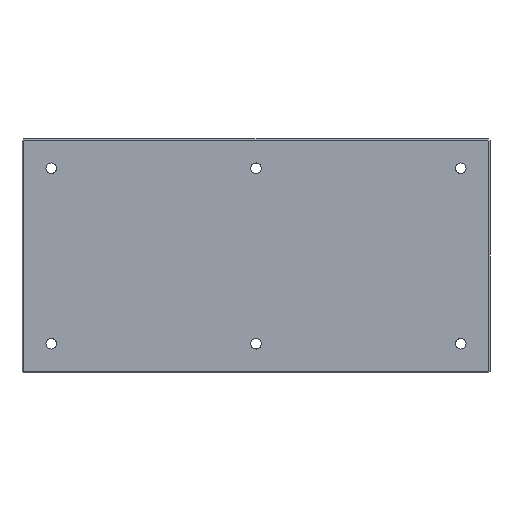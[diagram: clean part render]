
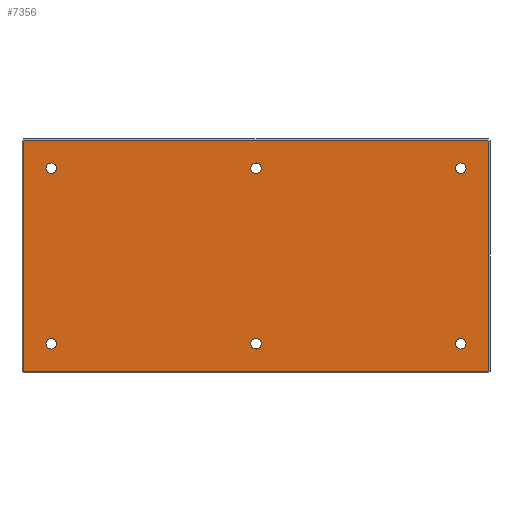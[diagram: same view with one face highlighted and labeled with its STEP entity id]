
A CAD part, front view. The second image highlights one B-rep face of the part: STEP entity #7356.
In plain terms, the highlighted planar face has unit normal (0, -1, 0).
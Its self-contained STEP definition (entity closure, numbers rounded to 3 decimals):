
#1=CARTESIAN_POINT('',(350.,-30.,150.));
#2=DIRECTION('',(0.,1.,0.));
#3=DIRECTION('',(1.,0.,0.));
#4=AXIS2_PLACEMENT_3D('',#1,#2,#3);
#6=CARTESIAN_POINT('',(350.,-30.,150.));
#7=DIRECTION('',(0.,1.,0.));
#8=DIRECTION('',(-1.,0.,0.));
#9=AXIS2_PLACEMENT_3D('',#6,#7,#8);
#11=CARTESIAN_POINT('',(0.,-30.,150.));
#12=DIRECTION('',(0.,1.,0.));
#13=DIRECTION('',(1.,0.,0.));
#14=AXIS2_PLACEMENT_3D('',#11,#12,#13);
#16=CARTESIAN_POINT('',(0.,-30.,150.));
#17=DIRECTION('',(0.,1.,0.));
#18=DIRECTION('',(-1.,0.,0.));
#19=AXIS2_PLACEMENT_3D('',#16,#17,#18);
#21=CARTESIAN_POINT('',(-350.,-30.,150.));
#22=DIRECTION('',(0.,1.,0.));
#23=DIRECTION('',(1.,0.,0.));
#24=AXIS2_PLACEMENT_3D('',#21,#22,#23);
#26=CARTESIAN_POINT('',(-350.,-30.,150.));
#27=DIRECTION('',(0.,1.,0.));
#28=DIRECTION('',(-1.,0.,0.));
#29=AXIS2_PLACEMENT_3D('',#26,#27,#28);
#31=CARTESIAN_POINT('',(350.,-30.,-150.));
#32=DIRECTION('',(0.,-1.,0.));
#33=DIRECTION('',(1.,0.,0.));
#34=AXIS2_PLACEMENT_3D('',#31,#32,#33);
#36=CARTESIAN_POINT('',(350.,-30.,-150.));
#37=DIRECTION('',(0.,-1.,0.));
#38=DIRECTION('',(-1.,0.,0.));
#39=AXIS2_PLACEMENT_3D('',#36,#37,#38);
#41=CARTESIAN_POINT('',(0.,-30.,-150.));
#42=DIRECTION('',(0.,-1.,0.));
#43=DIRECTION('',(1.,0.,0.));
#44=AXIS2_PLACEMENT_3D('',#41,#42,#43);
#46=CARTESIAN_POINT('',(0.,-30.,-150.));
#47=DIRECTION('',(0.,-1.,0.));
#48=DIRECTION('',(-1.,0.,0.));
#49=AXIS2_PLACEMENT_3D('',#46,#47,#48);
#51=CARTESIAN_POINT('',(-350.,-30.,-150.));
#52=DIRECTION('',(0.,-1.,0.));
#53=DIRECTION('',(1.,0.,0.));
#54=AXIS2_PLACEMENT_3D('',#51,#52,#53);
#56=CARTESIAN_POINT('',(-350.,-30.,-150.));
#57=DIRECTION('',(0.,-1.,0.));
#58=DIRECTION('',(-1.,0.,0.));
#59=AXIS2_PLACEMENT_3D('',#56,#57,#58);
#61=DIRECTION('',(0.707,0.,-0.707));
#62=VECTOR('',#61,1.757);
#63=CARTESIAN_POINT('',(-397.,-30.,-195.757));
#64=LINE('',#63,#62);
#65=DIRECTION('',(0.,0.,-1.));
#66=VECTOR('',#65,391.515);
#67=CARTESIAN_POINT('',(-397.,-30.,195.757));
#68=LINE('',#67,#66);
#69=DIRECTION('',(-0.707,0.,-0.707));
#70=VECTOR('',#69,1.757);
#71=CARTESIAN_POINT('',(-395.757,-30.,197.));
#72=LINE('',#71,#70);
#73=DIRECTION('',(-1.,0.,0.));
#74=VECTOR('',#73,791.515);
#75=CARTESIAN_POINT('',(395.757,-30.,197.));
#76=LINE('',#75,#74);
#77=DIRECTION('',(-0.707,0.,0.707));
#78=VECTOR('',#77,1.757);
#79=CARTESIAN_POINT('',(397.,-30.,195.757));
#80=LINE('',#79,#78);
#81=DIRECTION('',(0.,0.,1.));
#82=VECTOR('',#81,391.515);
#83=CARTESIAN_POINT('',(397.,-30.,-195.757));
#84=LINE('',#83,#82);
#85=DIRECTION('',(0.707,0.,0.707));
#86=VECTOR('',#85,1.757);
#87=CARTESIAN_POINT('',(395.757,-30.,-197.));
#88=LINE('',#87,#86);
#89=DIRECTION('',(1.,0.,0.));
#90=VECTOR('',#89,791.515);
#91=CARTESIAN_POINT('',(-395.757,-30.,-197.));
#92=LINE('',#91,#90);
#6537=CARTESIAN_POINT('',(359.,-30.,150.));
#6538=CARTESIAN_POINT('',(341.,-30.,150.));
#6539=VERTEX_POINT('',#6537);
#6540=VERTEX_POINT('',#6538);
#6573=CARTESIAN_POINT('',(9.,-30.,150.));
#6574=CARTESIAN_POINT('',(-9.,-30.,150.));
#6575=VERTEX_POINT('',#6573);
#6576=VERTEX_POINT('',#6574);
#6601=CARTESIAN_POINT('',(-341.,-30.,150.));
#6602=CARTESIAN_POINT('',(-359.,-30.,150.));
#6603=VERTEX_POINT('',#6601);
#6604=VERTEX_POINT('',#6602);
#6645=CARTESIAN_POINT('',(359.,-30.,-150.));
#6646=VERTEX_POINT('',#6645);
#6647=CARTESIAN_POINT('',(341.,-30.,-150.));
#6648=VERTEX_POINT('',#6647);
#6657=CARTESIAN_POINT('',(9.,-30.,-150.));
#6658=VERTEX_POINT('',#6657);
#6659=CARTESIAN_POINT('',(-9.,-30.,-150.));
#6660=VERTEX_POINT('',#6659);
#6669=CARTESIAN_POINT('',(-341.,-30.,-150.));
#6670=VERTEX_POINT('',#6669);
#6671=CARTESIAN_POINT('',(-359.,-30.,-150.));
#6672=VERTEX_POINT('',#6671);
#7161=CARTESIAN_POINT('',(-397.,-30.,-195.757));
#7162=CARTESIAN_POINT('',(-395.757,-30.,-197.));
#7163=VERTEX_POINT('',#7161);
#7164=VERTEX_POINT('',#7162);
#7171=CARTESIAN_POINT('',(395.757,-30.,-197.));
#7172=VERTEX_POINT('',#7171);
#7173=CARTESIAN_POINT('',(397.,-30.,-195.757));
#7174=VERTEX_POINT('',#7173);
#7179=CARTESIAN_POINT('',(397.,-30.,195.757));
#7180=VERTEX_POINT('',#7179);
#7181=CARTESIAN_POINT('',(395.757,-30.,197.));
#7182=VERTEX_POINT('',#7181);
#7187=CARTESIAN_POINT('',(-395.757,-30.,197.));
#7188=VERTEX_POINT('',#7187);
#7191=CARTESIAN_POINT('',(-397.,-30.,195.757));
#7192=VERTEX_POINT('',#7191);
#7297=CARTESIAN_POINT('',(0.,-30.,0.));
#7298=DIRECTION('',(0.,1.,0.));
#7299=DIRECTION('',(1.,0.,0.));
#7300=AXIS2_PLACEMENT_3D('',#7297,#7298,#7299);
#7301=PLANE('',#7300);
#7303=ORIENTED_EDGE('',*,*,#7302,.F.);
#7305=ORIENTED_EDGE('',*,*,#7304,.F.);
#7307=ORIENTED_EDGE('',*,*,#7306,.F.);
#7309=ORIENTED_EDGE('',*,*,#7308,.F.);
#7311=ORIENTED_EDGE('',*,*,#7310,.F.);
#7313=ORIENTED_EDGE('',*,*,#7312,.F.);
#7315=ORIENTED_EDGE('',*,*,#7314,.F.);
#7317=ORIENTED_EDGE('',*,*,#7316,.F.);
#7318=EDGE_LOOP('',(#7303,#7305,#7307,#7309,#7311,#7313,#7315,#7317));
#7319=FACE_OUTER_BOUND('',#7318,.F.);
#7321=ORIENTED_EDGE('',*,*,#7320,.F.);
#7323=ORIENTED_EDGE('',*,*,#7322,.F.);
#7324=EDGE_LOOP('',(#7321,#7323));
#7325=FACE_BOUND('',#7324,.F.);
#7327=ORIENTED_EDGE('',*,*,#7326,.F.);
#7329=ORIENTED_EDGE('',*,*,#7328,.F.);
#7330=EDGE_LOOP('',(#7327,#7329));
#7331=FACE_BOUND('',#7330,.F.);
#7333=ORIENTED_EDGE('',*,*,#7332,.T.);
#7335=ORIENTED_EDGE('',*,*,#7334,.T.);
#7336=EDGE_LOOP('',(#7333,#7335));
#7337=FACE_BOUND('',#7336,.F.);
#7339=ORIENTED_EDGE('',*,*,#7338,.T.);
#7341=ORIENTED_EDGE('',*,*,#7340,.T.);
#7342=EDGE_LOOP('',(#7339,#7341));
#7343=FACE_BOUND('',#7342,.F.);
#7345=ORIENTED_EDGE('',*,*,#7344,.T.);
#7347=ORIENTED_EDGE('',*,*,#7346,.T.);
#7348=EDGE_LOOP('',(#7345,#7347));
#7349=FACE_BOUND('',#7348,.F.);
#7351=ORIENTED_EDGE('',*,*,#7350,.F.);
#7353=ORIENTED_EDGE('',*,*,#7352,.F.);
#7354=EDGE_LOOP('',(#7351,#7353));
#7355=FACE_BOUND('',#7354,.F.);
#7356=ADVANCED_FACE('',(#7319,#7325,#7331,#7337,#7343,#7349,#7355),#7301,.F.);
#5=CIRCLE('',#4,9.);
#10=CIRCLE('',#9,9.);
#15=CIRCLE('',#14,9.);
#20=CIRCLE('',#19,9.);
#25=CIRCLE('',#24,9.);
#30=CIRCLE('',#29,9.);
#35=CIRCLE('',#34,9.);
#40=CIRCLE('',#39,9.);
#45=CIRCLE('',#44,9.);
#50=CIRCLE('',#49,9.);
#55=CIRCLE('',#54,9.);
#60=CIRCLE('',#59,9.);
#7302=EDGE_CURVE('',#7163,#7164,#64,.T.);
#7304=EDGE_CURVE('',#7192,#7163,#68,.T.);
#7306=EDGE_CURVE('',#7188,#7192,#72,.T.);
#7308=EDGE_CURVE('',#7182,#7188,#76,.T.);
#7310=EDGE_CURVE('',#7180,#7182,#80,.T.);
#7312=EDGE_CURVE('',#7174,#7180,#84,.T.);
#7314=EDGE_CURVE('',#7172,#7174,#88,.T.);
#7316=EDGE_CURVE('',#7164,#7172,#92,.T.);
#7320=EDGE_CURVE('',#6575,#6576,#15,.T.);
#7322=EDGE_CURVE('',#6576,#6575,#20,.T.);
#7326=EDGE_CURVE('',#6603,#6604,#25,.T.);
#7328=EDGE_CURVE('',#6604,#6603,#30,.T.);
#7332=EDGE_CURVE('',#6646,#6648,#35,.T.);
#7334=EDGE_CURVE('',#6648,#6646,#40,.T.);
#7338=EDGE_CURVE('',#6658,#6660,#45,.T.);
#7340=EDGE_CURVE('',#6660,#6658,#50,.T.);
#7344=EDGE_CURVE('',#6670,#6672,#55,.T.);
#7346=EDGE_CURVE('',#6672,#6670,#60,.T.);
#7350=EDGE_CURVE('',#6539,#6540,#5,.T.);
#7352=EDGE_CURVE('',#6540,#6539,#10,.T.);
